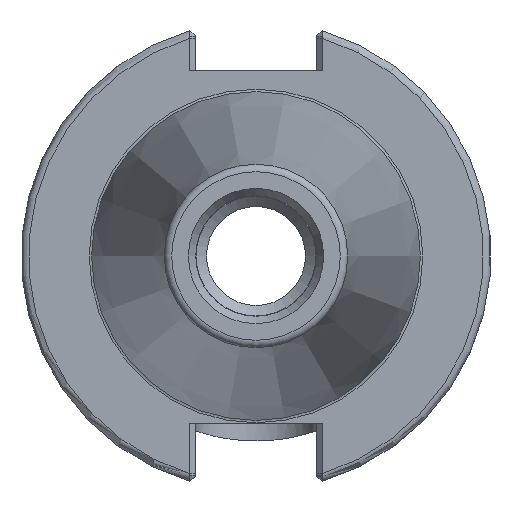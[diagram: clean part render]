
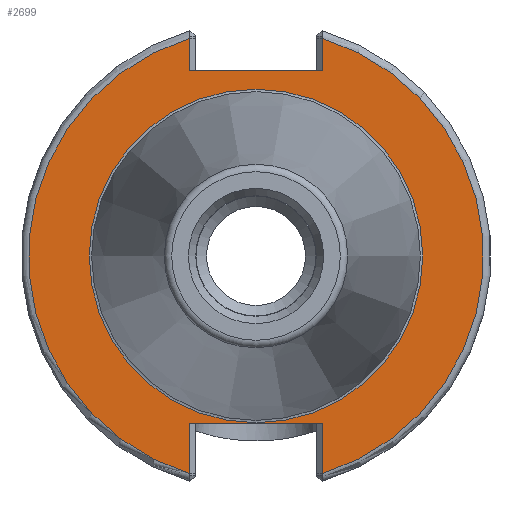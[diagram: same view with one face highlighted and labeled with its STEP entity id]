
A CAD part, left-side view. The second image highlights one B-rep face of the part: STEP entity #2699.
In plain terms, the highlighted planar face has unit normal (-1, 0, 0).
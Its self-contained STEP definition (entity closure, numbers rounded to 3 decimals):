
#167=FACE_BOUND('',#489,.T.);
#189=PLANE('',#2967);
#334=FACE_OUTER_BOUND('',#488,.T.);
#488=EDGE_LOOP('',(#2073,#2074,#2075,#2076,#2077,#2078,#2079,#2080));
#489=EDGE_LOOP('',(#2081,#2082));
#606=LINE('',#4035,#762);
#640=LINE('',#4469,#796);
#653=LINE('',#4613,#809);
#655=LINE('',#4684,#811);
#656=LINE('',#4687,#812);
#657=LINE('',#4688,#813);
#762=VECTOR('',#3294,10.);
#796=VECTOR('',#3366,10.);
#809=VECTOR('',#3425,10.);
#811=VECTOR('',#3447,10.);
#812=VECTOR('',#3450,10.);
#813=VECTOR('',#3451,10.);
#969=CIRCLE('',#2966,30.75);
#970=CIRCLE('',#2968,30.75);
#971=CIRCLE('',#2969,22.55);
#972=CIRCLE('',#2970,22.55);
#1109=VERTEX_POINT('',#4032);
#1110=VERTEX_POINT('',#4034);
#1160=VERTEX_POINT('',#4467);
#1161=VERTEX_POINT('',#4468);
#1179=VERTEX_POINT('',#4611);
#1185=VERTEX_POINT('',#4662);
#1187=VERTEX_POINT('',#4683);
#1188=VERTEX_POINT('',#4685);
#1189=VERTEX_POINT('',#4689);
#1190=VERTEX_POINT('',#4690);
#1412=EDGE_CURVE('',#1110,#1109,#606,.T.);
#1479=EDGE_CURVE('',#1160,#1161,#640,.T.);
#1510=EDGE_CURVE('',#1160,#1179,#653,.T.);
#1520=EDGE_CURVE('',#1179,#1185,#969,.T.);
#1523=EDGE_CURVE('',#1187,#1161,#655,.T.);
#1524=EDGE_CURVE('',#1188,#1187,#970,.T.);
#1525=EDGE_CURVE('',#1110,#1188,#656,.T.);
#1526=EDGE_CURVE('',#1185,#1109,#657,.T.);
#1527=EDGE_CURVE('',#1189,#1190,#971,.T.);
#1528=EDGE_CURVE('',#1190,#1189,#972,.T.);
#2073=ORIENTED_EDGE('',*,*,#1479,.T.);
#2074=ORIENTED_EDGE('',*,*,#1523,.F.);
#2075=ORIENTED_EDGE('',*,*,#1524,.F.);
#2076=ORIENTED_EDGE('',*,*,#1525,.F.);
#2077=ORIENTED_EDGE('',*,*,#1412,.T.);
#2078=ORIENTED_EDGE('',*,*,#1526,.F.);
#2079=ORIENTED_EDGE('',*,*,#1520,.F.);
#2080=ORIENTED_EDGE('',*,*,#1510,.F.);
#2081=ORIENTED_EDGE('',*,*,#1527,.F.);
#2082=ORIENTED_EDGE('',*,*,#1528,.F.);
#2699=ADVANCED_FACE('',(#334,#167),#189,.T.);
#2966=AXIS2_PLACEMENT_3D('',#4663,#3443,#3444);
#2967=AXIS2_PLACEMENT_3D('',#4682,#3445,#3446);
#2968=AXIS2_PLACEMENT_3D('',#4686,#3448,#3449);
#2969=AXIS2_PLACEMENT_3D('',#4691,#3452,#3453);
#2970=AXIS2_PLACEMENT_3D('',#4692,#3454,#3455);
#3294=DIRECTION('',(0.,1.,0.));
#3366=DIRECTION('',(0.,-1.,0.));
#3425=DIRECTION('',(0.,0.,-1.));
#3443=DIRECTION('center_axis',(1.,0.,0.));
#3444=DIRECTION('ref_axis',(0.,-1.,0.));
#3445=DIRECTION('center_axis',(-1.,0.,0.));
#3446=DIRECTION('ref_axis',(0.,0.,1.));
#3447=DIRECTION('',(0.,0.,1.));
#3448=DIRECTION('center_axis',(1.,0.,0.));
#3449=DIRECTION('ref_axis',(0.,-1.,0.));
#3450=DIRECTION('',(0.,0.,1.));
#3451=DIRECTION('',(0.,0.,-1.));
#3452=DIRECTION('center_axis',(-1.,0.,0.));
#3453=DIRECTION('ref_axis',(0.,-1.,0.));
#3454=DIRECTION('center_axis',(-1.,0.,0.));
#3455=DIRECTION('ref_axis',(0.,-1.,0.));
#4032=CARTESIAN_POINT('',(3.175,8.992,25.019));
#4034=CARTESIAN_POINT('',(3.175,-8.992,25.019));
#4035=CARTESIAN_POINT('',(3.175,19.971,25.019));
#4467=CARTESIAN_POINT('',(3.175,8.992,-22.606));
#4468=CARTESIAN_POINT('',(3.175,-8.992,-22.606));
#4469=CARTESIAN_POINT('',(3.175,11.779,-22.606));
#4611=CARTESIAN_POINT('',(3.175,8.992,-29.406));
#4613=CARTESIAN_POINT('',(3.175,8.992,-11.303));
#4662=CARTESIAN_POINT('',(3.175,8.992,29.406));
#4663=CARTESIAN_POINT('Origin',(3.175,0.,0.));
#4682=CARTESIAN_POINT('Origin',(3.175,31.75,0.));
#4683=CARTESIAN_POINT('',(3.175,-8.992,-29.406));
#4684=CARTESIAN_POINT('',(3.175,-8.992,-17.5));
#4685=CARTESIAN_POINT('',(3.175,-8.992,29.406));
#4686=CARTESIAN_POINT('Origin',(3.175,0.,0.));
#4687=CARTESIAN_POINT('',(3.175,-8.992,12.51));
#4688=CARTESIAN_POINT('',(3.175,8.992,17.5));
#4689=CARTESIAN_POINT('',(3.175,22.55,0.));
#4690=CARTESIAN_POINT('',(3.175,0.,22.55));
#4691=CARTESIAN_POINT('Origin',(3.175,0.,0.));
#4692=CARTESIAN_POINT('Origin',(3.175,0.,0.));
